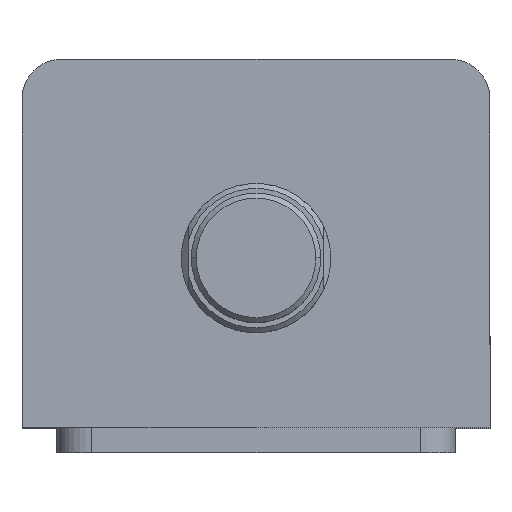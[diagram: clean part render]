
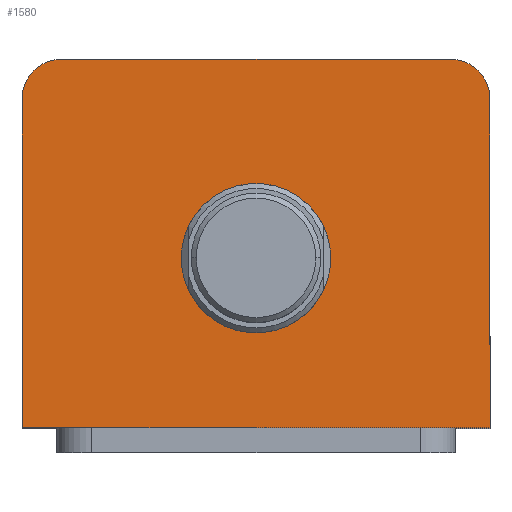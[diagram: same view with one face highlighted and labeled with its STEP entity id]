
A CAD part, top view. The second image highlights one B-rep face of the part: STEP entity #1580.
In plain terms, the highlighted planar face has unit normal (0, 0, 1).
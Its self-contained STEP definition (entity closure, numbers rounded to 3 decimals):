
#38 = LINE ( 'NONE', #2511, #41 ) ;
#41 = VECTOR ( 'NONE', #2506, 1000. ) ;
#83 = LINE ( 'NONE', #2542, #86 ) ;
#85 = CIRCLE ( 'NONE', #1505, 15. ) ;
#86 = VECTOR ( 'NONE', #2540, 1000. ) ;
#99 = CIRCLE ( 'NONE', #1507, 8. ) ;
#110 = LINE ( 'NONE', #611, #113 ) ;
#113 = VECTOR ( 'NONE', #597, 1000. ) ;
#118 = CIRCLE ( 'NONE', #1624, 8. ) ;
#176 = LINE ( 'NONE', #2057, #185 ) ;
#182 = CIRCLE ( 'NONE', #1641, 15. ) ;
#185 = VECTOR ( 'NONE', #2042, 1000. ) ;
#306 = FACE_BOUND ( 'NONE', #2343, .T. ) ;
#311 = FACE_OUTER_BOUND ( 'NONE', #2295, .T. ) ;
#551 = DIRECTION ( 'NONE',  ( 0., 0., 1. ) ) ;
#597 = DIRECTION ( 'NONE',  ( 1., 0., 0. ) ) ;
#611 = CARTESIAN_POINT ( 'NONE',  ( -47., -37., 140. ) ) ;
#647 = DIRECTION ( 'NONE',  ( 1., 0., 0. ) ) ;
#649 = CARTESIAN_POINT ( 'NONE',  ( 39., 29., 140. ) ) ;
#914 = CARTESIAN_POINT ( 'NONE',  ( 0., 0., 140. ) ) ;
#915 = PLANE ( 'NONE',  #1705 ) ;
#920 = DIRECTION ( 'NONE',  ( 0., 0., 1. ) ) ;
#921 = DIRECTION ( 'NONE',  ( 1., 0., 0. ) ) ;
#1037 = CARTESIAN_POINT ( 'NONE',  ( 47., 29., 140. ) ) ;
#1042 = CARTESIAN_POINT ( 'NONE',  ( -15., -3., 140. ) ) ;
#1077 = CARTESIAN_POINT ( 'NONE',  ( -47., -37., 140. ) ) ;
#1080 = CARTESIAN_POINT ( 'NONE',  ( 39., 37., 140. ) ) ;
#1094 = CARTESIAN_POINT ( 'NONE',  ( -47., 29., 140. ) ) ;
#1105 = CARTESIAN_POINT ( 'NONE',  ( 47., -37., 140. ) ) ;
#1133 = CARTESIAN_POINT ( 'NONE',  ( -39., 37., 140. ) ) ;
#1134 = CARTESIAN_POINT ( 'NONE',  ( 15., -3., 140. ) ) ;
#1337 = EDGE_CURVE ( 'NONE', #2157, #2235, #38, .T. ) ;
#1363 = EDGE_CURVE ( 'NONE', #2176, #2150, #83, .T. ) ;
#1364 = EDGE_CURVE ( 'NONE', #2253, #2068, #85, .T. ) ;
#1372 = EDGE_CURVE ( 'NONE', #2235, #2176, #99, .T. ) ;
#1381 = EDGE_CURVE ( 'NONE', #2150, #2189, #110, .T. ) ;
#1386 = EDGE_CURVE ( 'NONE', #2072, #2157, #118, .T. ) ;
#1426 = EDGE_CURVE ( 'NONE', #2189, #2072, #176, .T. ) ;
#1429 = EDGE_CURVE ( 'NONE', #2068, #2253, #182, .T. ) ;
#1505 = AXIS2_PLACEMENT_3D ( 'NONE', #2536, #2535, #2533 ) ;
#1507 = AXIS2_PLACEMENT_3D ( 'NONE', #2509, #2508, #2507 ) ;
#1580 = ADVANCED_FACE ( 'NONE', ( #306, #311 ), #915, .T. ) ;
#1624 = AXIS2_PLACEMENT_3D ( 'NONE', #649, #551, #647 ) ;
#1641 = AXIS2_PLACEMENT_3D ( 'NONE', #2037, #2036, #2035 ) ;
#1705 = AXIS2_PLACEMENT_3D ( 'NONE', #914, #920, #921 ) ;
#2035 = DIRECTION ( 'NONE',  ( 1., 0., 0. ) ) ;
#2036 = DIRECTION ( 'NONE',  ( 0., 0., 1. ) ) ;
#2037 = CARTESIAN_POINT ( 'NONE',  ( 0., -3., 140. ) ) ;
#2042 = DIRECTION ( 'NONE',  ( 0., 1., 0. ) ) ;
#2057 = CARTESIAN_POINT ( 'NONE',  ( 47., 37., 140. ) ) ;
#2068 = VERTEX_POINT ( 'NONE', #1042 ) ;
#2072 = VERTEX_POINT ( 'NONE', #1037 ) ;
#2150 = VERTEX_POINT ( 'NONE', #1077 ) ;
#2157 = VERTEX_POINT ( 'NONE', #1080 ) ;
#2176 = VERTEX_POINT ( 'NONE', #1094 ) ;
#2189 = VERTEX_POINT ( 'NONE', #1105 ) ;
#2235 = VERTEX_POINT ( 'NONE', #1133 ) ;
#2253 = VERTEX_POINT ( 'NONE', #1134 ) ;
#2295 = EDGE_LOOP ( 'NONE', ( #2794, #2761, #2796, #2777, #2778, #2779 ) ) ;
#2343 = EDGE_LOOP ( 'NONE', ( #2769, #2765 ) ) ;
#2506 = DIRECTION ( 'NONE',  ( -1., 0., 0. ) ) ;
#2507 = DIRECTION ( 'NONE',  ( 1., 0., 0. ) ) ;
#2508 = DIRECTION ( 'NONE',  ( 0., 0., 1. ) ) ;
#2509 = CARTESIAN_POINT ( 'NONE',  ( -39., 29., 140. ) ) ;
#2511 = CARTESIAN_POINT ( 'NONE',  ( -47., 37., 140. ) ) ;
#2533 = DIRECTION ( 'NONE',  ( 1., 0., 0. ) ) ;
#2535 = DIRECTION ( 'NONE',  ( 0., 0., 1. ) ) ;
#2536 = CARTESIAN_POINT ( 'NONE',  ( 0., -3., 140. ) ) ;
#2540 = DIRECTION ( 'NONE',  ( 0., -1., 0. ) ) ;
#2542 = CARTESIAN_POINT ( 'NONE',  ( -47., 37., 140. ) ) ;
#2761 = ORIENTED_EDGE ( 'NONE', *, *, #1372, .T. ) ;
#2765 = ORIENTED_EDGE ( 'NONE', *, *, #1429, .F. ) ;
#2769 = ORIENTED_EDGE ( 'NONE', *, *, #1364, .F. ) ;
#2777 = ORIENTED_EDGE ( 'NONE', *, *, #1381, .T. ) ;
#2778 = ORIENTED_EDGE ( 'NONE', *, *, #1426, .T. ) ;
#2779 = ORIENTED_EDGE ( 'NONE', *, *, #1386, .T. ) ;
#2794 = ORIENTED_EDGE ( 'NONE', *, *, #1337, .T. ) ;
#2796 = ORIENTED_EDGE ( 'NONE', *, *, #1363, .T. ) ;
